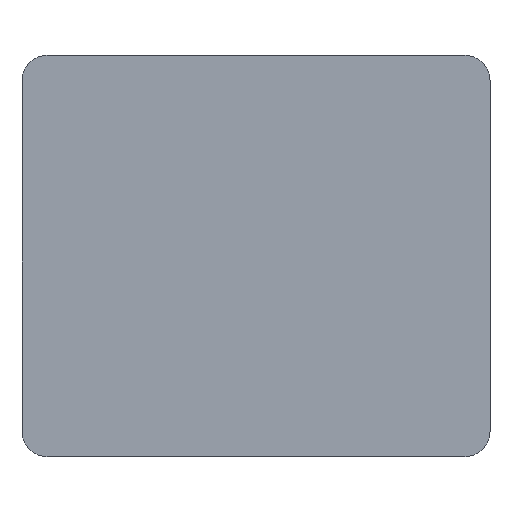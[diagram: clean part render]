
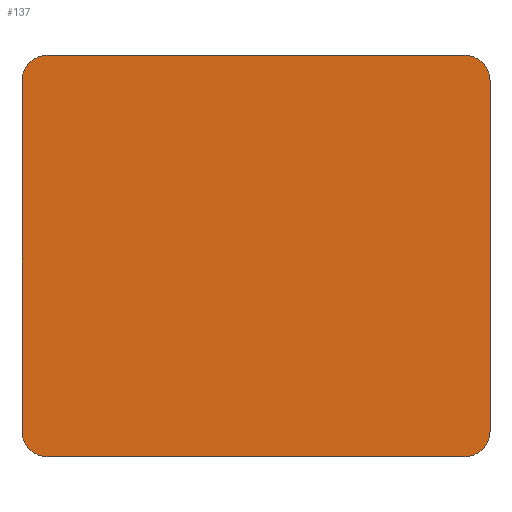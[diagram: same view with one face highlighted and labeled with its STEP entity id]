
A CAD part, top view. The second image highlights one B-rep face of the part: STEP entity #137.
In plain terms, the highlighted planar face has unit normal (0, 0, 1).
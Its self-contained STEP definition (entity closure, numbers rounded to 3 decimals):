
#21 = EDGE_CURVE('',#22,#24,#26,.T.);
#22 = VERTEX_POINT('',#23);
#23 = CARTESIAN_POINT('',(28.,-21.,-21.));
#24 = VERTEX_POINT('',#25);
#25 = CARTESIAN_POINT('',(28.,21.,-21.));
#26 = SURFACE_CURVE('',#27,(#31,#43),.PCURVE_S1.);
#27 = LINE('',#28,#29);
#28 = CARTESIAN_POINT('',(28.,-24.,-21.));
#29 = VECTOR('',#30,1.);
#30 = DIRECTION('',(-0.,1.,0.));
#31 = PCURVE('',#32,#37);
#32 = PLANE('',#33);
#33 = AXIS2_PLACEMENT_3D('',#34,#35,#36);
#34 = CARTESIAN_POINT('',(28.,-24.,-23.));
#35 = DIRECTION('',(-1.,-0.,0.));
#36 = DIRECTION('',(0.,0.,-1.));
#37 = DEFINITIONAL_REPRESENTATION('',(#38),#42);
#38 = LINE('',#39,#40);
#39 = CARTESIAN_POINT('',(-2.,-0.));
#40 = VECTOR('',#41,1.);
#41 = DIRECTION('',(-0.,-1.));
#42 = ( GEOMETRIC_REPRESENTATION_CONTEXT(2) 
PARAMETRIC_REPRESENTATION_CONTEXT() REPRESENTATION_CONTEXT('2D SPACE',''
  ) );
#43 = PCURVE('',#44,#49);
#44 = PLANE('',#45);
#45 = AXIS2_PLACEMENT_3D('',#46,#47,#48);
#46 = CARTESIAN_POINT('',(28.,-24.,-21.));
#47 = DIRECTION('',(0.,0.,1.));
#48 = DIRECTION('',(1.,0.,0.));
#49 = DEFINITIONAL_REPRESENTATION('',(#50),#54);
#50 = LINE('',#51,#52);
#51 = CARTESIAN_POINT('',(0.,-0.));
#52 = VECTOR('',#53,1.);
#53 = DIRECTION('',(-0.,1.));
#54 = ( GEOMETRIC_REPRESENTATION_CONTEXT(2) 
PARAMETRIC_REPRESENTATION_CONTEXT() REPRESENTATION_CONTEXT('2D SPACE',''
  ) );
#72 = CYLINDRICAL_SURFACE('',#73,3.);
#73 = AXIS2_PLACEMENT_3D('',#74,#75,#76);
#74 = CARTESIAN_POINT('',(25.,-21.,-23.));
#75 = DIRECTION('',(-0.,-0.,1.));
#76 = DIRECTION('',(1.,-0.,0.));
#126 = CYLINDRICAL_SURFACE('',#127,3.);
#127 = AXIS2_PLACEMENT_3D('',#128,#129,#130);
#128 = CARTESIAN_POINT('',(25.,21.,-23.));
#129 = DIRECTION('',(-0.,-0.,1.));
#130 = DIRECTION('',(1.,-0.,0.));
#137 = ADVANCED_FACE('',(#138),#44,.T.);
#138 = FACE_BOUND('',#139,.F.);
#139 = EDGE_LOOP('',(#140,#141,#169,#197,#226,#254,#287,#315));
#140 = ORIENTED_EDGE('',*,*,#21,.F.);
#141 = ORIENTED_EDGE('',*,*,#142,.T.);
#142 = EDGE_CURVE('',#22,#143,#145,.T.);
#143 = VERTEX_POINT('',#144);
#144 = CARTESIAN_POINT('',(25.,-24.,-21.));
#145 = SURFACE_CURVE('',#146,(#151,#162),.PCURVE_S1.);
#146 = CIRCLE('',#147,3.);
#147 = AXIS2_PLACEMENT_3D('',#148,#149,#150);
#148 = CARTESIAN_POINT('',(25.,-21.,-21.));
#149 = DIRECTION('',(0.,0.,-1.));
#150 = DIRECTION('',(-0.,-1.,-0.));
#151 = PCURVE('',#44,#152);
#152 = DEFINITIONAL_REPRESENTATION('',(#153),#161);
#153 = ( BOUNDED_CURVE() B_SPLINE_CURVE(2,(#154,#155,#156,#157,#158,#159
,#160),.UNSPECIFIED.,.T.,.F.) B_SPLINE_CURVE_WITH_KNOTS((1,2,2,2,2,1),(
    -2.094,0.,2.094,4.189,6.283,
8.378),.UNSPECIFIED.) CURVE() GEOMETRIC_REPRESENTATION_ITEM() 
RATIONAL_B_SPLINE_CURVE((1.,0.5,1.,0.5,1.,0.5,1.)) REPRESENTATION_ITEM(
  '') );
#154 = CARTESIAN_POINT('',(-3.,0.));
#155 = CARTESIAN_POINT('',(-8.196,0.));
#156 = CARTESIAN_POINT('',(-5.598,4.5));
#157 = CARTESIAN_POINT('',(-3.,9.));
#158 = CARTESIAN_POINT('',(-0.402,4.5));
#159 = CARTESIAN_POINT('',(2.196,0.));
#160 = CARTESIAN_POINT('',(-3.,0.));
#161 = ( GEOMETRIC_REPRESENTATION_CONTEXT(2) 
PARAMETRIC_REPRESENTATION_CONTEXT() REPRESENTATION_CONTEXT('2D SPACE',''
  ) );
#162 = PCURVE('',#72,#163);
#163 = DEFINITIONAL_REPRESENTATION('',(#164),#168);
#164 = LINE('',#165,#166);
#165 = CARTESIAN_POINT('',(4.712,2.));
#166 = VECTOR('',#167,1.);
#167 = DIRECTION('',(-1.,0.));
#168 = ( GEOMETRIC_REPRESENTATION_CONTEXT(2) 
PARAMETRIC_REPRESENTATION_CONTEXT() REPRESENTATION_CONTEXT('2D SPACE',''
  ) );
#169 = ORIENTED_EDGE('',*,*,#170,.T.);
#170 = EDGE_CURVE('',#143,#171,#173,.T.);
#171 = VERTEX_POINT('',#172);
#172 = CARTESIAN_POINT('',(-25.,-24.,-21.));
#173 = SURFACE_CURVE('',#174,(#178,#185),.PCURVE_S1.);
#174 = LINE('',#175,#176);
#175 = CARTESIAN_POINT('',(28.,-24.,-21.));
#176 = VECTOR('',#177,1.);
#177 = DIRECTION('',(-1.,-0.,0.));
#178 = PCURVE('',#44,#179);
#179 = DEFINITIONAL_REPRESENTATION('',(#180),#184);
#180 = LINE('',#181,#182);
#181 = CARTESIAN_POINT('',(0.,-0.));
#182 = VECTOR('',#183,1.);
#183 = DIRECTION('',(-1.,0.));
#184 = ( GEOMETRIC_REPRESENTATION_CONTEXT(2) 
PARAMETRIC_REPRESENTATION_CONTEXT() REPRESENTATION_CONTEXT('2D SPACE',''
  ) );
#185 = PCURVE('',#186,#191);
#186 = PLANE('',#187);
#187 = AXIS2_PLACEMENT_3D('',#188,#189,#190);
#188 = CARTESIAN_POINT('',(28.,-24.,-23.));
#189 = DIRECTION('',(-0.,1.,0.));
#190 = DIRECTION('',(0.,0.,-1.));
#191 = DEFINITIONAL_REPRESENTATION('',(#192),#196);
#192 = LINE('',#193,#194);
#193 = CARTESIAN_POINT('',(-2.,-0.));
#194 = VECTOR('',#195,1.);
#195 = DIRECTION('',(-0.,1.));
#196 = ( GEOMETRIC_REPRESENTATION_CONTEXT(2) 
PARAMETRIC_REPRESENTATION_CONTEXT() REPRESENTATION_CONTEXT('2D SPACE',''
  ) );
#197 = ORIENTED_EDGE('',*,*,#198,.F.);
#198 = EDGE_CURVE('',#199,#171,#201,.T.);
#199 = VERTEX_POINT('',#200);
#200 = CARTESIAN_POINT('',(-28.,-21.,-21.));
#201 = SURFACE_CURVE('',#202,(#207,#214),.PCURVE_S1.);
#202 = CIRCLE('',#203,3.);
#203 = AXIS2_PLACEMENT_3D('',#204,#205,#206);
#204 = CARTESIAN_POINT('',(-25.,-21.,-21.));
#205 = DIRECTION('',(0.,-0.,1.));
#206 = DIRECTION('',(-0.,-1.,-0.));
#207 = PCURVE('',#44,#208);
#208 = DEFINITIONAL_REPRESENTATION('',(#209),#213);
#209 = CIRCLE('',#210,3.);
#210 = AXIS2_PLACEMENT_2D('',#211,#212);
#211 = CARTESIAN_POINT('',(-53.,3.));
#212 = DIRECTION('',(-0.,-1.));
#213 = ( GEOMETRIC_REPRESENTATION_CONTEXT(2) 
PARAMETRIC_REPRESENTATION_CONTEXT() REPRESENTATION_CONTEXT('2D SPACE',''
  ) );
#214 = PCURVE('',#215,#220);
#215 = CYLINDRICAL_SURFACE('',#216,3.);
#216 = AXIS2_PLACEMENT_3D('',#217,#218,#219);
#217 = CARTESIAN_POINT('',(-25.,-21.,-23.));
#218 = DIRECTION('',(-0.,-0.,1.));
#219 = DIRECTION('',(-1.,-0.,-0.));
#220 = DEFINITIONAL_REPRESENTATION('',(#221),#225);
#221 = LINE('',#222,#223);
#222 = CARTESIAN_POINT('',(-4.712,2.));
#223 = VECTOR('',#224,1.);
#224 = DIRECTION('',(1.,0.));
#225 = ( GEOMETRIC_REPRESENTATION_CONTEXT(2) 
PARAMETRIC_REPRESENTATION_CONTEXT() REPRESENTATION_CONTEXT('2D SPACE',''
  ) );
#226 = ORIENTED_EDGE('',*,*,#227,.T.);
#227 = EDGE_CURVE('',#199,#228,#230,.T.);
#228 = VERTEX_POINT('',#229);
#229 = CARTESIAN_POINT('',(-28.,21.,-21.));
#230 = SURFACE_CURVE('',#231,(#235,#242),.PCURVE_S1.);
#231 = LINE('',#232,#233);
#232 = CARTESIAN_POINT('',(-28.,-24.,-21.));
#233 = VECTOR('',#234,1.);
#234 = DIRECTION('',(-0.,1.,0.));
#235 = PCURVE('',#44,#236);
#236 = DEFINITIONAL_REPRESENTATION('',(#237),#241);
#237 = LINE('',#238,#239);
#238 = CARTESIAN_POINT('',(-56.,0.));
#239 = VECTOR('',#240,1.);
#240 = DIRECTION('',(-0.,1.));
#241 = ( GEOMETRIC_REPRESENTATION_CONTEXT(2) 
PARAMETRIC_REPRESENTATION_CONTEXT() REPRESENTATION_CONTEXT('2D SPACE',''
  ) );
#242 = PCURVE('',#243,#248);
#243 = PLANE('',#244);
#244 = AXIS2_PLACEMENT_3D('',#245,#246,#247);
#245 = CARTESIAN_POINT('',(-28.,-24.,-23.));
#246 = DIRECTION('',(-1.,-0.,0.));
#247 = DIRECTION('',(0.,0.,-1.));
#248 = DEFINITIONAL_REPRESENTATION('',(#249),#253);
#249 = LINE('',#250,#251);
#250 = CARTESIAN_POINT('',(-2.,-0.));
#251 = VECTOR('',#252,1.);
#252 = DIRECTION('',(-0.,-1.));
#253 = ( GEOMETRIC_REPRESENTATION_CONTEXT(2) 
PARAMETRIC_REPRESENTATION_CONTEXT() REPRESENTATION_CONTEXT('2D SPACE',''
  ) );
#254 = ORIENTED_EDGE('',*,*,#255,.T.);
#255 = EDGE_CURVE('',#228,#256,#258,.T.);
#256 = VERTEX_POINT('',#257);
#257 = CARTESIAN_POINT('',(-25.,24.,-21.));
#258 = SURFACE_CURVE('',#259,(#264,#275),.PCURVE_S1.);
#259 = CIRCLE('',#260,3.);
#260 = AXIS2_PLACEMENT_3D('',#261,#262,#263);
#261 = CARTESIAN_POINT('',(-25.,21.,-21.));
#262 = DIRECTION('',(0.,0.,-1.));
#263 = DIRECTION('',(-0.,-1.,-0.));
#264 = PCURVE('',#44,#265);
#265 = DEFINITIONAL_REPRESENTATION('',(#266),#274);
#266 = ( BOUNDED_CURVE() B_SPLINE_CURVE(2,(#267,#268,#269,#270,#271,#272
,#273),.UNSPECIFIED.,.T.,.F.) B_SPLINE_CURVE_WITH_KNOTS((1,2,2,2,2,1),(
    -2.094,0.,2.094,4.189,6.283,
8.378),.UNSPECIFIED.) CURVE() GEOMETRIC_REPRESENTATION_ITEM() 
RATIONAL_B_SPLINE_CURVE((1.,0.5,1.,0.5,1.,0.5,1.)) REPRESENTATION_ITEM(
  '') );
#267 = CARTESIAN_POINT('',(-53.,42.));
#268 = CARTESIAN_POINT('',(-58.196,42.));
#269 = CARTESIAN_POINT('',(-55.598,46.5));
#270 = CARTESIAN_POINT('',(-53.,51.));
#271 = CARTESIAN_POINT('',(-50.402,46.5));
#272 = CARTESIAN_POINT('',(-47.804,42.));
#273 = CARTESIAN_POINT('',(-53.,42.));
#274 = ( GEOMETRIC_REPRESENTATION_CONTEXT(2) 
PARAMETRIC_REPRESENTATION_CONTEXT() REPRESENTATION_CONTEXT('2D SPACE',''
  ) );
#275 = PCURVE('',#276,#281);
#276 = CYLINDRICAL_SURFACE('',#277,3.);
#277 = AXIS2_PLACEMENT_3D('',#278,#279,#280);
#278 = CARTESIAN_POINT('',(-25.,21.,-23.));
#279 = DIRECTION('',(-0.,-0.,1.));
#280 = DIRECTION('',(-1.,-0.,-0.));
#281 = DEFINITIONAL_REPRESENTATION('',(#282),#286);
#282 = LINE('',#283,#284);
#283 = CARTESIAN_POINT('',(1.571,2.));
#284 = VECTOR('',#285,1.);
#285 = DIRECTION('',(-1.,0.));
#286 = ( GEOMETRIC_REPRESENTATION_CONTEXT(2) 
PARAMETRIC_REPRESENTATION_CONTEXT() REPRESENTATION_CONTEXT('2D SPACE',''
  ) );
#287 = ORIENTED_EDGE('',*,*,#288,.F.);
#288 = EDGE_CURVE('',#289,#256,#291,.T.);
#289 = VERTEX_POINT('',#290);
#290 = CARTESIAN_POINT('',(25.,24.,-21.));
#291 = SURFACE_CURVE('',#292,(#296,#303),.PCURVE_S1.);
#292 = LINE('',#293,#294);
#293 = CARTESIAN_POINT('',(28.,24.,-21.));
#294 = VECTOR('',#295,1.);
#295 = DIRECTION('',(-1.,-0.,0.));
#296 = PCURVE('',#44,#297);
#297 = DEFINITIONAL_REPRESENTATION('',(#298),#302);
#298 = LINE('',#299,#300);
#299 = CARTESIAN_POINT('',(0.,48.));
#300 = VECTOR('',#301,1.);
#301 = DIRECTION('',(-1.,0.));
#302 = ( GEOMETRIC_REPRESENTATION_CONTEXT(2) 
PARAMETRIC_REPRESENTATION_CONTEXT() REPRESENTATION_CONTEXT('2D SPACE',''
  ) );
#303 = PCURVE('',#304,#309);
#304 = PLANE('',#305);
#305 = AXIS2_PLACEMENT_3D('',#306,#307,#308);
#306 = CARTESIAN_POINT('',(28.,24.,-23.));
#307 = DIRECTION('',(-0.,1.,0.));
#308 = DIRECTION('',(0.,0.,-1.));
#309 = DEFINITIONAL_REPRESENTATION('',(#310),#314);
#310 = LINE('',#311,#312);
#311 = CARTESIAN_POINT('',(-2.,-0.));
#312 = VECTOR('',#313,1.);
#313 = DIRECTION('',(-0.,1.));
#314 = ( GEOMETRIC_REPRESENTATION_CONTEXT(2) 
PARAMETRIC_REPRESENTATION_CONTEXT() REPRESENTATION_CONTEXT('2D SPACE',''
  ) );
#315 = ORIENTED_EDGE('',*,*,#316,.F.);
#316 = EDGE_CURVE('',#24,#289,#317,.T.);
#317 = SURFACE_CURVE('',#318,(#323,#330),.PCURVE_S1.);
#318 = CIRCLE('',#319,3.);
#319 = AXIS2_PLACEMENT_3D('',#320,#321,#322);
#320 = CARTESIAN_POINT('',(25.,21.,-21.));
#321 = DIRECTION('',(0.,-0.,1.));
#322 = DIRECTION('',(-0.,-1.,-0.));
#323 = PCURVE('',#44,#324);
#324 = DEFINITIONAL_REPRESENTATION('',(#325),#329);
#325 = CIRCLE('',#326,3.);
#326 = AXIS2_PLACEMENT_2D('',#327,#328);
#327 = CARTESIAN_POINT('',(-3.,45.));
#328 = DIRECTION('',(-0.,-1.));
#329 = ( GEOMETRIC_REPRESENTATION_CONTEXT(2) 
PARAMETRIC_REPRESENTATION_CONTEXT() REPRESENTATION_CONTEXT('2D SPACE',''
  ) );
#330 = PCURVE('',#126,#331);
#331 = DEFINITIONAL_REPRESENTATION('',(#332),#336);
#332 = LINE('',#333,#334);
#333 = CARTESIAN_POINT('',(-1.571,2.));
#334 = VECTOR('',#335,1.);
#335 = DIRECTION('',(1.,0.));
#336 = ( GEOMETRIC_REPRESENTATION_CONTEXT(2) 
PARAMETRIC_REPRESENTATION_CONTEXT() REPRESENTATION_CONTEXT('2D SPACE',''
  ) );
